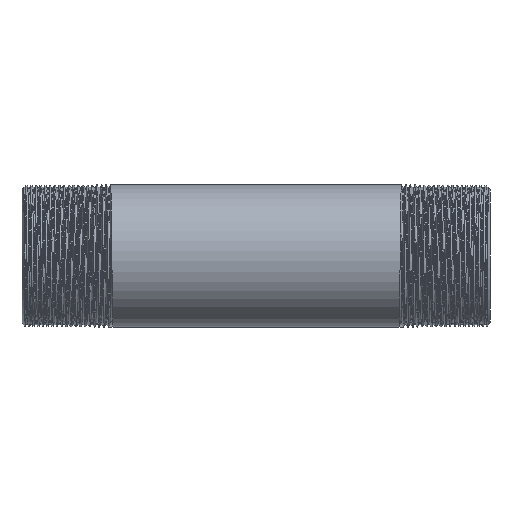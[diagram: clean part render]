
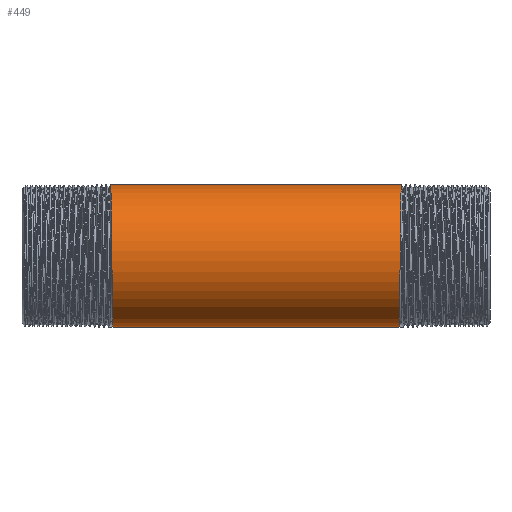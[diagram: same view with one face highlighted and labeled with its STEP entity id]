
A CAD part, front view. The second image highlights one B-rep face of the part: STEP entity #449.
In plain terms, the highlighted cylindrical face has radius 10.65 mm (diameter 21.3 mm), a partial arc.
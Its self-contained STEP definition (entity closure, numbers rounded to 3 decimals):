
#318 = CARTESIAN_POINT ( 'NONE',  ( -149.494, 0., 0. ) ) ;
#380 = CARTESIAN_POINT ( 'NONE',  ( 21.621, -9.223, 5.325 ) ) ;
#449 = ADVANCED_FACE ( 'NONE', ( #10318 ), #466, .T. ) ;
#466 = CYLINDRICAL_SURFACE ( 'NONE', #7911, 10.65 ) ;
#609 = LINE ( 'NONE', #13757, #3488 ) ;
#1096 = CARTESIAN_POINT ( 'NONE',  ( -21.738, 0., 10.65 ) ) ;
#1163 = CARTESIAN_POINT ( 'NONE',  ( -21.621, -9.223, 5.325 ) ) ;
#1178 = EDGE_CURVE ( 'NONE', #2256, #6395, #609, .T. ) ;
#1630 =( BOUNDED_CURVE ( )  B_SPLINE_CURVE ( 2, ( #4856, #2626, #12458, #6005, #380, #11389, #7217 ),
 .UNSPECIFIED., .F., .F. ) 
 B_SPLINE_CURVE_WITH_KNOTS ( ( 3, 2, 2, 3 ),
 ( 0., 0.006, 0.013, 0.019 ),
 .UNSPECIFIED. ) 
 CURVE ( )  GEOMETRIC_REPRESENTATION_ITEM ( )  RATIONAL_B_SPLINE_CURVE ( ( 1., 0.866, 1., 0.866, 1., 0.866, 1. ) ) 
 REPRESENTATION_ITEM ( '' )  );
#2082 = ORIENTED_EDGE ( 'NONE', *, *, #2609, .F. ) ;
#2256 = VERTEX_POINT ( 'NONE', #9053 ) ;
#2609 = EDGE_CURVE ( 'NONE', #8713, #11354, #9460, .T. ) ;
#2626 = CARTESIAN_POINT ( 'NONE',  ( 21.446, -6.149, -10.65 ) ) ;
#2706 = DIRECTION ( 'NONE',  ( 0., 0., 1. ) ) ;
#3271 = CARTESIAN_POINT ( 'NONE',  ( -21.446, -6.149, -10.65 ) ) ;
#3337 = CARTESIAN_POINT ( 'NONE',  ( -21.388, 0., -10.65 ) ) ;
#3488 = VECTOR ( 'NONE', #8310, 1000. ) ;
#3532 = VECTOR ( 'NONE', #6229, 1000. ) ;
#3812 = ORIENTED_EDGE ( 'NONE', *, *, #5133, .F. ) ;
#4156 = CARTESIAN_POINT ( 'NONE',  ( -149.494, 0., -10.65 ) ) ;
#4856 = CARTESIAN_POINT ( 'NONE',  ( 21.388, 0., -10.65 ) ) ;
#5133 = EDGE_CURVE ( 'NONE', #11354, #6395, #12460, .T. ) ;
#6005 = CARTESIAN_POINT ( 'NONE',  ( 21.563, -12.298, 0. ) ) ;
#6229 = DIRECTION ( 'NONE',  ( -1., 0., 0. ) ) ;
#6395 = VERTEX_POINT ( 'NONE', #7750 ) ;
#6901 = CARTESIAN_POINT ( 'NONE',  ( -21.679, -6.149, 10.65 ) ) ;
#7217 = CARTESIAN_POINT ( 'NONE',  ( 21.738, 0., 10.65 ) ) ;
#7593 = EDGE_CURVE ( 'NONE', #8713, #2256, #1630, .T. ) ;
#7750 = CARTESIAN_POINT ( 'NONE',  ( -21.738, 0., 10.65 ) ) ;
#7911 = AXIS2_PLACEMENT_3D ( 'NONE', #318, #13616, #2706 ) ;
#8310 = DIRECTION ( 'NONE',  ( -1., 0., 0. ) ) ;
#8410 = EDGE_LOOP ( 'NONE', ( #2082, #10858, #13594, #3812 ) ) ;
#8713 = VERTEX_POINT ( 'NONE', #11306 ) ;
#9053 = CARTESIAN_POINT ( 'NONE',  ( 21.738, 0., 10.65 ) ) ;
#9460 = LINE ( 'NONE', #4156, #3532 ) ;
#9564 = CARTESIAN_POINT ( 'NONE',  ( -21.388, 0., -10.65 ) ) ;
#10318 = FACE_OUTER_BOUND ( 'NONE', #8410, .T. ) ;
#10858 = ORIENTED_EDGE ( 'NONE', *, *, #7593, .T. ) ;
#10953 = CARTESIAN_POINT ( 'NONE',  ( -21.563, -12.298, 0. ) ) ;
#11306 = CARTESIAN_POINT ( 'NONE',  ( 21.388, 0., -10.65 ) ) ;
#11354 = VERTEX_POINT ( 'NONE', #9564 ) ;
#11389 = CARTESIAN_POINT ( 'NONE',  ( 21.679, -6.149, 10.65 ) ) ;
#12357 = CARTESIAN_POINT ( 'NONE',  ( -21.504, -9.223, -5.325 ) ) ;
#12458 = CARTESIAN_POINT ( 'NONE',  ( 21.504, -9.223, -5.325 ) ) ;
#12460 =( BOUNDED_CURVE ( )  B_SPLINE_CURVE ( 2, ( #3337, #3271, #12357, #10953, #1163, #6901, #1096 ),
 .UNSPECIFIED., .F., .F. ) 
 B_SPLINE_CURVE_WITH_KNOTS ( ( 3, 2, 2, 3 ),
 ( 0., 0.006, 0.013, 0.019 ),
 .UNSPECIFIED. ) 
 CURVE ( )  GEOMETRIC_REPRESENTATION_ITEM ( )  RATIONAL_B_SPLINE_CURVE ( ( 1., 0.866, 1., 0.866, 1., 0.866, 1. ) ) 
 REPRESENTATION_ITEM ( '' )  );
#13594 = ORIENTED_EDGE ( 'NONE', *, *, #1178, .T. ) ;
#13616 = DIRECTION ( 'NONE',  ( -1., 0., 0. ) ) ;
#13757 = CARTESIAN_POINT ( 'NONE',  ( -149.494, 0., 10.65 ) ) ;
